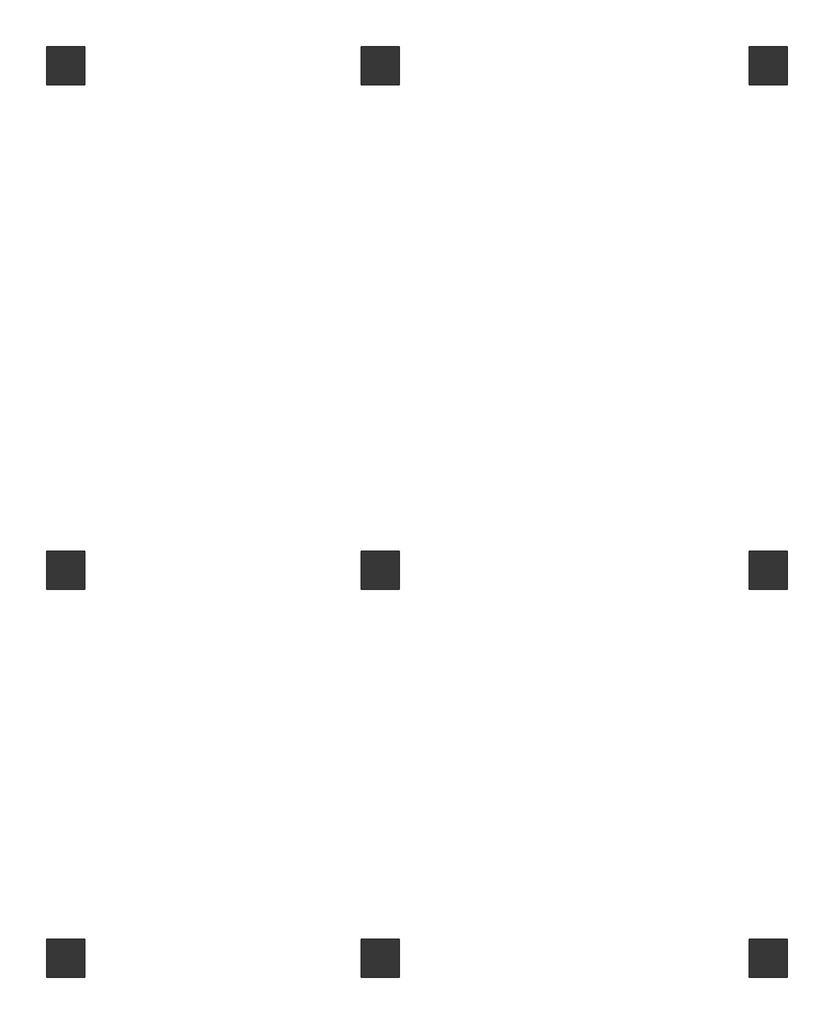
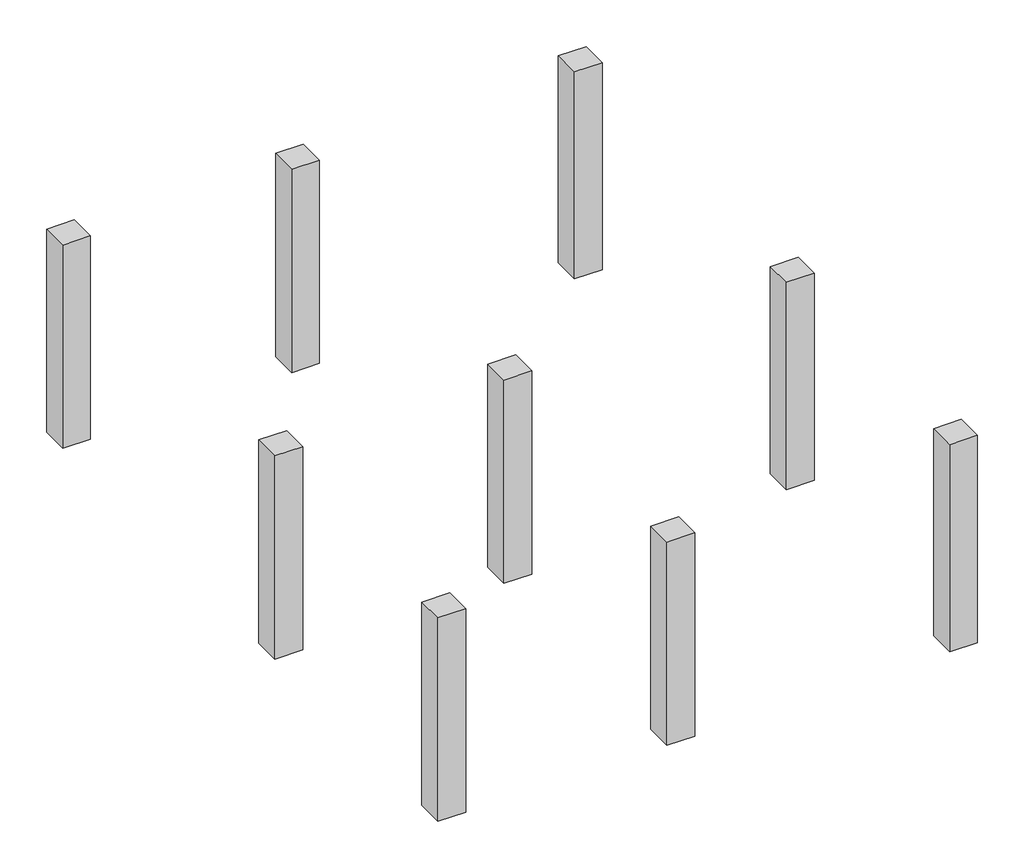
# One storey: 9 columns.
"""IFC4 building model written with IfcOpenShell, lengths in millimetres."""

from ifc_helpers import new_model, si_unit, frame, origin, place, context, project, spatial, polyline, outline, extrude, element, save

model = new_model("IFC4")

# Units and contexts
model_context = context("Model", 3, world=origin())
ifc_project = project(units=[si_unit("LENGTHUNIT", "METRE", prefix="MILLI")], contexts=[model_context])

# Site, building, storey
site = spatial("IfcSite", under=ifc_project)
building = spatial("IfcBuilding", under=site)
storey = spatial("IfcBuildingStorey", under=building, Name="T.O.F", Elevation=-1677.0)

# Columns
placement = place(None, origin())
element("IfcColumn", 1, ObjectType="M_Concrete-Rectangular-Column : 600 x 600mm", at=placement, inside=storey, context=model_context, shape_type="SweptSolid", body=[
    extrude(outline(polyline([(-21844.300634, -10058.8363965), (-21844.300634, -9458.8363965), (-21244.300634, -9458.8363965), (-21244.300634, -10058.8363965), (-21844.300634, -10058.8363965)])), frame((0.0, 0.0, -1677.0), z_axis=(0.0, 0.0, 1.0), x_axis=(1.0, 0.0, 0.0)), (0.0, 0.0, 1.0), 4635.0),
])
element("IfcColumn", 2, ObjectType="M_Concrete-Rectangular-Column : 600 x 600mm", at=placement, inside=storey, context=model_context, shape_type="SweptSolid", body=[
    extrude(outline(polyline([(-21844.300634, -3962.8363965), (-21844.300634, -3362.8363965), (-21244.300634, -3362.8363965), (-21244.300634, -3962.8363965), (-21844.300634, -3962.8363965)])), frame((0.0, 0.0, -1677.0), z_axis=(0.0, 0.0, 1.0), x_axis=(1.0, 0.0, 0.0)), (0.0, 0.0, 1.0), 4635.0),
])
element("IfcColumn", 3, ObjectType="M_Concrete-Rectangular-Column : 600 x 600mm", at=placement, inside=storey, context=model_context, shape_type="SweptSolid", body=[
    extrude(outline(polyline([(-21844.300634, 3962.1636035), (-21844.300634, 4562.1636035), (-21244.300634, 4562.1636035), (-21244.300634, 3962.1636035), (-21844.300634, 3962.1636035)])), frame((0.0, 0.0, -1677.0), z_axis=(0.0, 0.0, 1.0), x_axis=(1.0, 0.0, 0.0)), (0.0, 0.0, 1.0), 4635.0),
])
element("IfcColumn", 4, ObjectType="M_Concrete-Rectangular-Column : 600 x 600mm", at=placement, inside=storey, context=model_context, shape_type="SweptSolid", body=[
    extrude(outline(polyline([(-16904.9035319, -10058.8363965), (-16904.9035319, -9458.8363965), (-16304.9035319, -9458.8363965), (-16304.9035319, -10058.8363965), (-16904.9035319, -10058.8363965)])), frame((0.0, 0.0, -1677.0), z_axis=(0.0, 0.0, 1.0), x_axis=(1.0, 0.0, 0.0)), (0.0, 0.0, 1.0), 4635.0),
])
element("IfcColumn", 5, ObjectType="M_Concrete-Rectangular-Column : 600 x 600mm", at=placement, inside=storey, context=model_context, shape_type="SweptSolid", body=[
    extrude(outline(polyline([(-16904.9035319, -3962.8363965), (-16904.9035319, -3362.8363965), (-16304.9035319, -3362.8363965), (-16304.9035319, -3962.8363965), (-16904.9035319, -3962.8363965)])), frame((0.0, 0.0, -1677.0), z_axis=(0.0, 0.0, 1.0), x_axis=(1.0, 0.0, 0.0)), (0.0, 0.0, 1.0), 4635.0),
])
element("IfcColumn", 6, ObjectType="M_Concrete-Rectangular-Column : 600 x 600mm", at=placement, inside=storey, context=model_context, shape_type="SweptSolid", body=[
    extrude(outline(polyline([(-16904.9035319, 3962.1636035), (-16904.9035319, 4562.1636035), (-16304.9035319, 4562.1636035), (-16304.9035319, 3962.1636035), (-16904.9035319, 3962.1636035)])), frame((0.0, 0.0, -1677.0), z_axis=(0.0, 0.0, 1.0), x_axis=(1.0, 0.0, 0.0)), (0.0, 0.0, 1.0), 4635.0),
])
element("IfcColumn", 7, ObjectType="M_Concrete-Rectangular-Column : 600 x 600mm", at=placement, inside=storey, context=model_context, shape_type="SweptSolid", body=[
    extrude(outline(polyline([(-10808.9035319, -10058.8363965), (-10808.9035319, -9458.8363965), (-10208.9035319, -9458.8363965), (-10208.9035319, -10058.8363965), (-10808.9035319, -10058.8363965)])), frame((0.0, 0.0, -1677.0), z_axis=(0.0, 0.0, 1.0), x_axis=(1.0, 0.0, 0.0)), (0.0, 0.0, 1.0), 4725.0),
])
element("IfcColumn", 8, ObjectType="M_Concrete-Rectangular-Column : 600 x 600mm", at=placement, inside=storey, context=model_context, shape_type="SweptSolid", body=[
    extrude(outline(polyline([(-10808.9035319, -3962.8363965), (-10808.9035319, -3362.8363965), (-10208.9035319, -3362.8363965), (-10208.9035319, -3962.8363965), (-10808.9035319, -3962.8363965)])), frame((0.0, 0.0, -1677.0), z_axis=(0.0, 0.0, 1.0), x_axis=(1.0, 0.0, 0.0)), (0.0, 0.0, 1.0), 4725.0),
])
element("IfcColumn", 9, ObjectType="M_Concrete-Rectangular-Column : 600 x 600mm", at=placement, inside=storey, context=model_context, shape_type="SweptSolid", body=[
    extrude(outline(polyline([(-10808.9035319, 3962.1636035), (-10808.9035319, 4562.1636035), (-10208.9035319, 4562.1636035), (-10208.9035319, 3962.1636035), (-10808.9035319, 3962.1636035)])), frame((0.0, 0.0, -1677.0), z_axis=(0.0, 0.0, 1.0), x_axis=(1.0, 0.0, 0.0)), (0.0, 0.0, 1.0), 4725.0),
])

save(model, "model.ifc")
